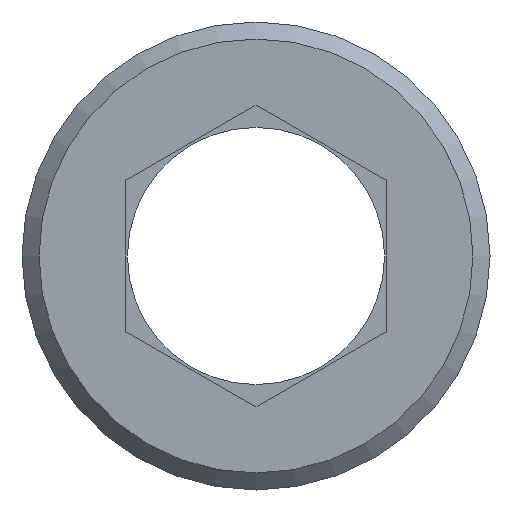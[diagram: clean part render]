
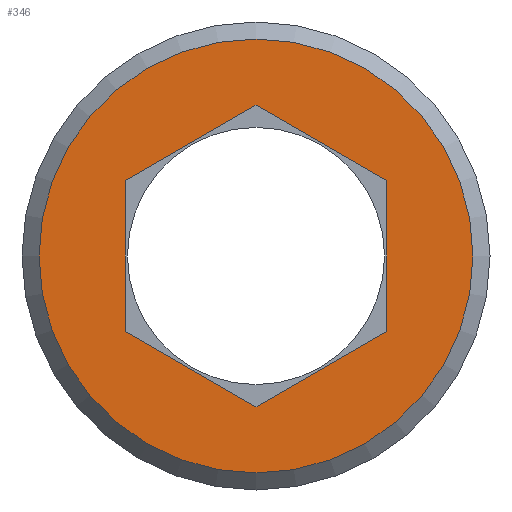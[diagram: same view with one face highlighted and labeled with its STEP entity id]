
A CAD part, front view. The second image highlights one B-rep face of the part: STEP entity #346.
In plain terms, the highlighted planar face has unit normal (0, -1, 0).
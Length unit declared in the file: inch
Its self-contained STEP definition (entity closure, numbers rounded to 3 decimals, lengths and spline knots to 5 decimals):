
#26=FACE_BOUND('',#89,.T.);
#43=CIRCLE('',#393,0.48);
#66=FACE_OUTER_BOUND('',#88,.T.);
#88=EDGE_LOOP('',(#293));
#89=EDGE_LOOP('',(#294,#295,#296,#297,#298,#299));
#97=LINE('',#528,#121);
#100=LINE('',#534,#124);
#103=LINE('',#540,#127);
#106=LINE('',#546,#130);
#109=LINE('',#552,#133);
#112=LINE('',#556,#136);
#121=VECTOR('',#414,0.3937);
#124=VECTOR('',#419,0.3937);
#127=VECTOR('',#424,0.3937);
#130=VECTOR('',#429,0.3937);
#133=VECTOR('',#434,0.3937);
#136=VECTOR('',#439,0.3937);
#145=VERTEX_POINT('',#525);
#146=VERTEX_POINT('',#527);
#148=VERTEX_POINT('',#533);
#150=VERTEX_POINT('',#539);
#152=VERTEX_POINT('',#545);
#154=VERTEX_POINT('',#551);
#168=VERTEX_POINT('',#593);
#179=EDGE_CURVE('',#146,#145,#97,.T.);
#182=EDGE_CURVE('',#148,#146,#100,.T.);
#185=EDGE_CURVE('',#150,#148,#103,.T.);
#188=EDGE_CURVE('',#152,#150,#106,.T.);
#191=EDGE_CURVE('',#154,#152,#109,.T.);
#194=EDGE_CURVE('',#145,#154,#112,.T.);
#211=EDGE_CURVE('',#168,#168,#43,.T.);
#293=ORIENTED_EDGE('',*,*,#211,.F.);
#294=ORIENTED_EDGE('',*,*,#179,.T.);
#295=ORIENTED_EDGE('',*,*,#194,.T.);
#296=ORIENTED_EDGE('',*,*,#191,.T.);
#297=ORIENTED_EDGE('',*,*,#188,.T.);
#298=ORIENTED_EDGE('',*,*,#185,.T.);
#299=ORIENTED_EDGE('',*,*,#182,.T.);
#330=PLANE('',#399);
#346=ADVANCED_FACE('',(#66,#26),#330,.T.);
#393=AXIS2_PLACEMENT_3D('',#594,#485,#486);
#399=AXIS2_PLACEMENT_3D('',#606,#499,#500);
#414=DIRECTION('',(-0.866,0.,0.5));
#419=DIRECTION('',(-0.866,0.,-0.5));
#424=DIRECTION('',(0.,0.,-1.));
#429=DIRECTION('',(0.866,0.,-0.5));
#434=DIRECTION('',(0.866,0.,0.5));
#439=DIRECTION('',(0.,0.,1.));
#485=DIRECTION('center_axis',(0.,1.,0.));
#486=DIRECTION('ref_axis',(0.,0.,1.));
#499=DIRECTION('center_axis',(0.,-1.,0.));
#500=DIRECTION('ref_axis',(0.,0.,-1.));
#525=CARTESIAN_POINT('',(-0.2891,0.,-0.16691));
#527=CARTESIAN_POINT('',(0.,0.,-0.33382));
#528=CARTESIAN_POINT('',(-0.01144,0.,-0.32722));
#533=CARTESIAN_POINT('',(0.2891,0.,-0.16691));
#534=CARTESIAN_POINT('',(0.15599,0.,-0.24376));
#539=CARTESIAN_POINT('',(0.2891,0.,0.16691));
#540=CARTESIAN_POINT('',(0.2891,0.,-0.05704));
#545=CARTESIAN_POINT('',(0.,0.,0.33382));
#546=CARTESIAN_POINT('',(0.13311,0.,0.25697));
#551=CARTESIAN_POINT('',(-0.2891,0.,0.16691));
#552=CARTESIAN_POINT('',(-0.27766,0.,0.17351));
#556=CARTESIAN_POINT('',(-0.2891,0.,-0.22396));
#593=CARTESIAN_POINT('',(0.,0.,-0.48));
#594=CARTESIAN_POINT('Origin',(0.,0.,0.));
#606=CARTESIAN_POINT('Origin',(0.,0.,-0.281));
